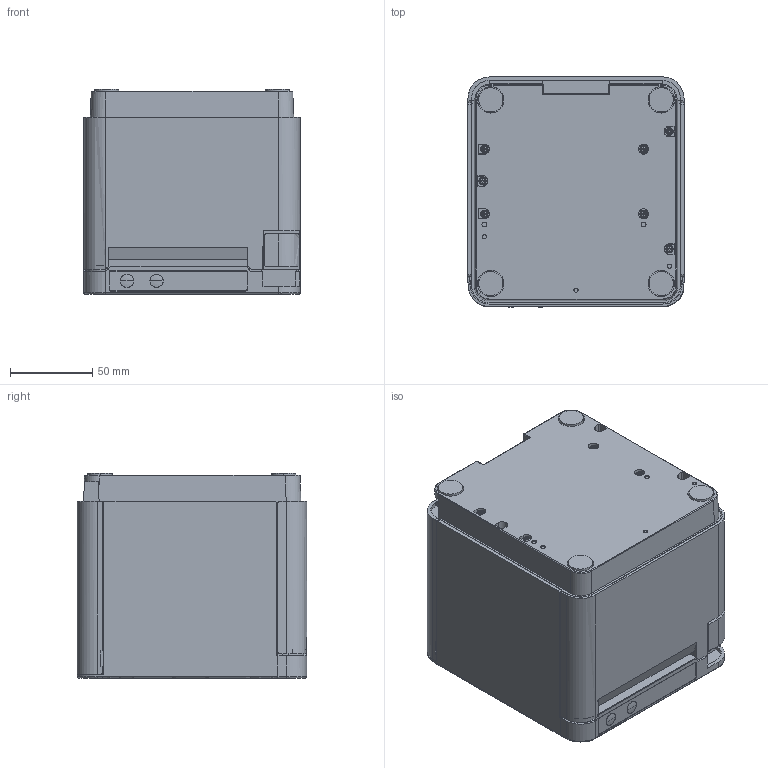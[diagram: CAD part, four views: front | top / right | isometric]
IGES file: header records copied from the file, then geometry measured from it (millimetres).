
Start section: Elysium IGES Interface
Global section: file name: 99HX:\Develop\Personal\Umezawa\20190125_公開用外観3Dデータ\提出用データ_IGES形式\mC-Print3_3D_data.igs; native system: PTC Creo Elements/Direct Modeling 19.0E  27-Jun-2016; preprocessor: Creo Element/Direct IGES_3D V2.2; author: Unknown; organization: Unknown; date: 20190131.113609; units: millimetre
Bounding box: 132 x 140.15 x 125 mm (x, y, z)
Volume: 2210378.7 mm3; surface area: 123609.1 mm2
Topology: 1 solids, 1 shells, 549 faces, 1497 edges, 973 vertices
Faces by surface type: bspline 549
